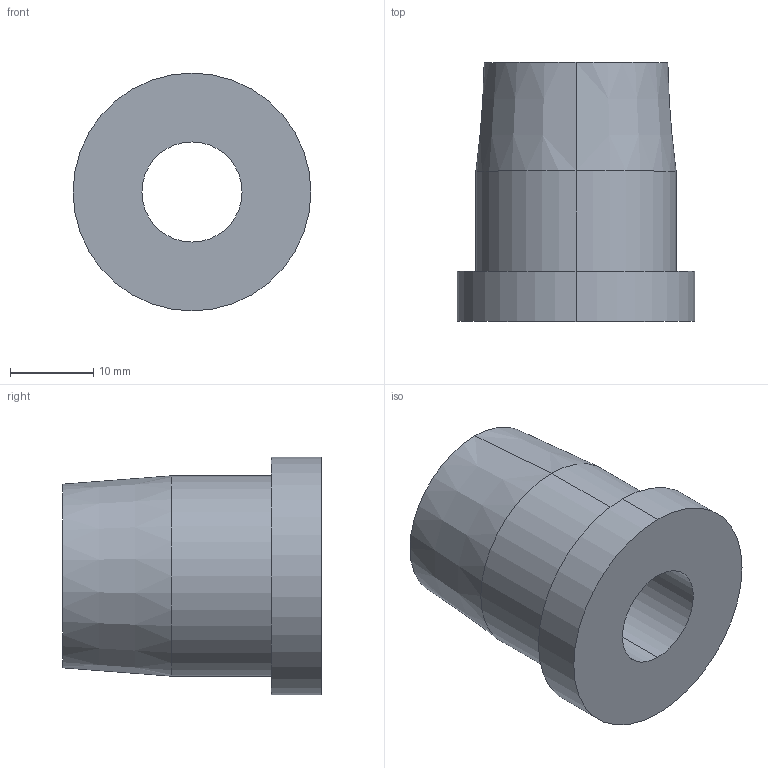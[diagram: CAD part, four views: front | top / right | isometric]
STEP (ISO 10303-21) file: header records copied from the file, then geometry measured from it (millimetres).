
FILE_DESCRIPTION (( 'STEP AP214' ), '1' );
FILE_NAME ('JB-406M12.step', '2023-12-26T00:49:22', ( 'catia' ), ( 'HP Inc.' ), 'SwSTEP 2.0', 'SolidWorks 2021', '' );
FILE_SCHEMA (( 'AUTOMOTIVE_DESIGN' ));
Length unit declared in the file: millimetre
Products named in the file (1): JB-406M12
Bounding box: 28.5 x 31 x 28.5 mm (x, y, z)
Volume: 11154.9 mm3; surface area: 4530.2 mm2
Topology: 1 solids, 1 shells, 11 faces, 22 edges, 14 vertices
Faces by surface type: cylinder 6, plane 3, cone 2
Entity records: 332 total; most frequent: DIRECTION 60, CARTESIAN_POINT 48, ORIENTED_EDGE 44, AXIS2_PLACEMENT_3D 26, EDGE_CURVE 22, CIRCLE 14, VERTEX_POINT 14, EDGE_LOOP 14
